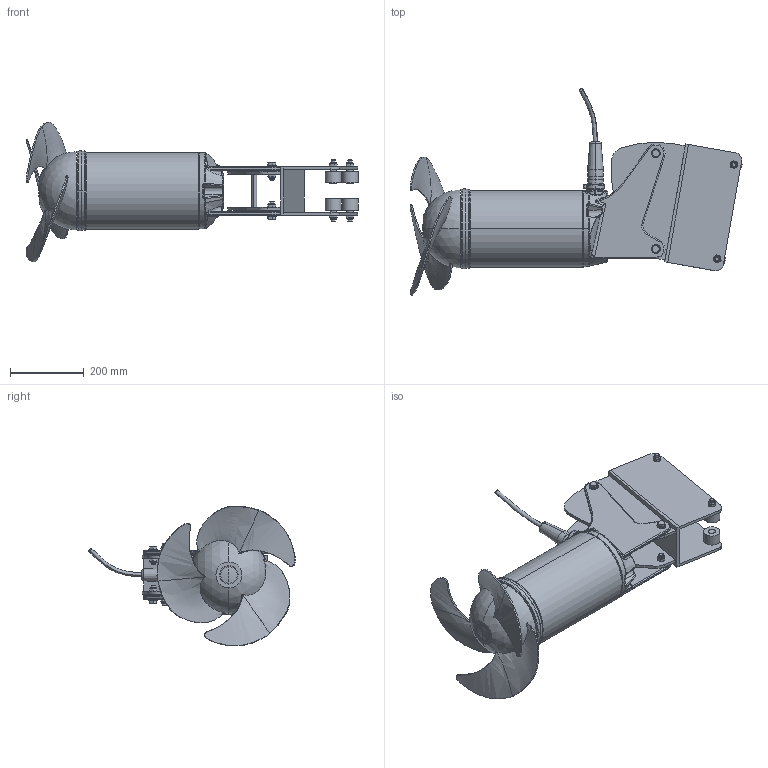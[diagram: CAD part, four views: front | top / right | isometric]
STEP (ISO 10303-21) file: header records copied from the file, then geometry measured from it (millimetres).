
FILE_DESCRIPTION (( 'STEP AP214' ), '1' );
FILE_NAME ('XRW400 Vkt.100 with vertical angle adjustment -15°_MSD.STEP', '2017-09-21T08:03:26', ( '' ), ( '' ), 'SwSTEP 2.0', 'SolidWorks 2017', '' );
FILE_SCHEMA (( 'AUTOMOTIVE_DESIGN' ));
Length unit declared in the file: millimetre
Products named in the file (1): XRW400 Vkt.100 with vertical angle adjustment -15°_MSD
Bounding box: 901.64 x 560.77 x 379.98 mm (x, y, z)
Volume: 18903800.3 mm3; surface area: 1251507.8 mm2
Topology: 1 solids, 1 shells, 985 faces, 2346 edges, 1426 vertices
Faces by surface type: plane 281, bspline 219, cylinder 180, cone 167, torus 108, sphere 30
Entity records: 150171 total; most frequent: CARTESIAN_POINT 118307, ORIENTED_EDGE 4664, DIRECTION 3964, EDGE_CURVE 2332, AXIS2_PLACEMENT_3D 1641, VERTEX_POINT 1424, EDGE_LOOP 1068, UNCERTAINTY_MEASURE_WITH_UNIT 988
